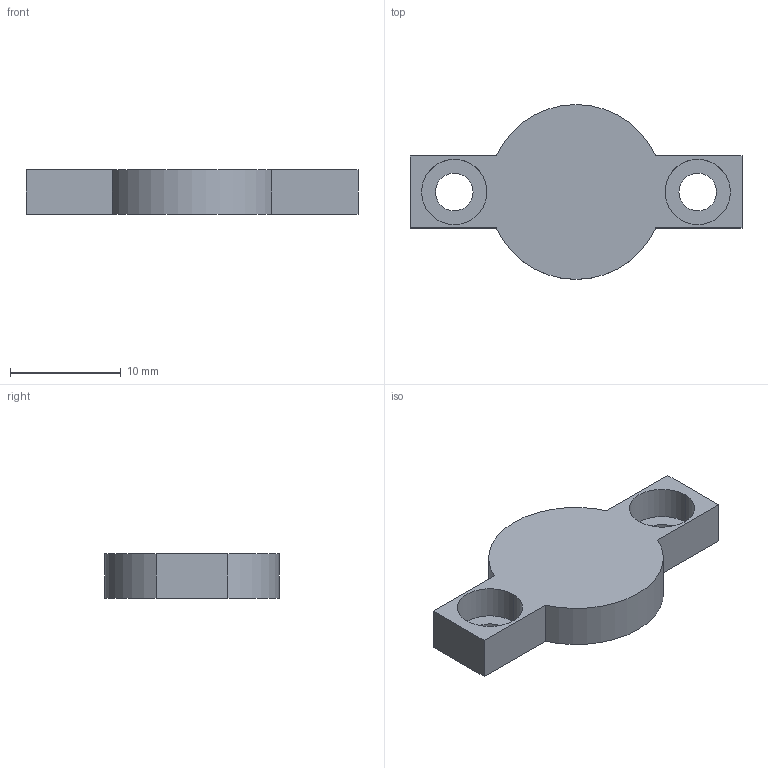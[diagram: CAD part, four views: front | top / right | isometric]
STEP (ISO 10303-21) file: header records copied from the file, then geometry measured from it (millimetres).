
FILE_DESCRIPTION((''),'2;1');
FILE_NAME('622ZZBEARINGFIX','2022-08-24T09:16:41',('domen.bizjak'),('Audax d.o.o.'),'CREO PARAMETRIC BY PTC INC, 2021184','CREO PARAMETRIC BY PTC INC, 2021184','');
FILE_SCHEMA(('AP242_MANAGED_MODEL_BASED_3D_ENGINEERING_MIM_LF { 1 0 10303 442 1 1 4 }'));
Length unit declared in the file: millimetre
Products named in the file (1): 622ZZBEARINGFIX
Bounding box: 30 x 15.8 x 4 mm (x, y, z)
Volume: 983.2 mm3; surface area: 1000.7 mm2
Topology: 1 solids, 1 shells, 20 faces, 51 edges, 38 vertices
Faces by surface type: cylinder 10, plane 10
Entity records: 1413 total; most frequent: COLOUR_RGB 319, DIRECTION 141, CARTESIAN_POINT 123, ORIENTED_EDGE 96, PRESENTATION_STYLE_ASSIGNMENT 58, STYLED_ITEM 58, AXIS2_PLACEMENT_3D 55, CURVE_STYLE 53
